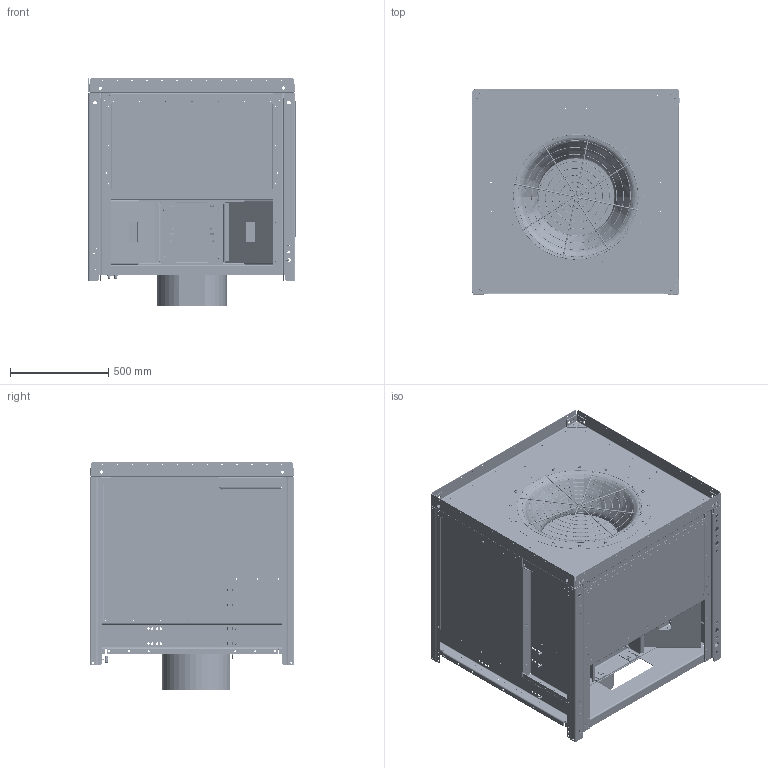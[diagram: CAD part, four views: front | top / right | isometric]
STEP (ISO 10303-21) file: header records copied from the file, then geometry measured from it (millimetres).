
FILE_DESCRIPTION((''),'2;1');
FILE_NAME('058686_ASM','2014-08-07T',('dbubemyre'),(''),'PRO/ENGINEER BY PARAMETRIC TECHNOLOGY CORPORATION, 2014090','PRO/ENGINEER BY PARAMETRIC TECHNOLOGY CORPORATION, 2014090','');
FILE_SCHEMA(('CONFIG_CONTROL_DESIGN'));
Length unit declared in the file: inch
Products named in the file (85): 0575820001; 0575830001; 0575740005; 0575880001; 057834_MIR; 0575820012_MIR; 057834; 0575990001_MIR_ASM; 0575820012; 0575740005_AF5; 0575990001_AF5_ASM; NEMA_284T_TEFC; 0575690001; 0575680010; 0576650009; 0579720004; 0575650005; 0579720004_B; 057576; 0575710002; 057778; 057778_MIR; 0575880003; 057581; NUT-INSERT_RIVET_31-18THD; WA012; HCS048; 0575660001; 0575700002; 0575790001; 0575890004_ASM; 0575660003; 0575700004; 0575790003; 0575890002_ASM; NUT-INSERT_RIVET_10-32THD; FITTING-TUBE-TO-THREAD_25; 05405801; 057632; 0544950007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
Assembly tree (292 placements, depth 3):
  058686_ASM
    0575990001_MIR_ASM
      0575820001
      0575830001
      0575740005
      0575880001  x2
      057834_MIR
      0575820012_MIR
      057834
    0575990001_AF5_ASM
      0575820012
      0575830001
      0575820001
      0575740005_AF5
      0575880001  x2
      057834_MIR
      057834
    NEMA_284T_TEFC
    0575690001
    0575680010
    0576650009
    0579720004
    0575650005
    0579720004_B
    057576
    0575710002
    057778
    057778_MIR
    0575880003  x3
    057581  x4
    NUT-INSERT_RIVET_31-18THD  x16
    WA012  x16
    HCS048  x16
    0575890004_ASM
      0575660001
      0575700002
      0575790001
    0575890002_ASM
      0575660003
      0575700004
      0575790003
    NUT-INSERT_RIVET_10-32THD
    FITTING-TUBE-TO-THREAD_25
    05405801
    057632
    0544950007
    057631  x4
    058559
    BULKHEAD_TUBEFITTING_25  x2
    0575730001
    0576560002_ASM
      INLETGUARD_222
      RING_AJ
      ROD_222  x4
    057699-245_ASM
      057699_1_245
      057699_3_245  x2
      057699_2_245
      057699_4A  x32
      057699_4B  x2
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Bounding box: 1053.33 x 1042.16 x 1159.73 mm (x, y, z)
Volume: 239398528.8 mm3; surface area: 30518269.7 mm2
Topology: 284 solids, 284 shells, 6763 faces, 16306 edges, 10258 vertices
Faces by surface type: cylinder 3748, plane 2359, torus 340, cone 200, bspline 116
Entity records: 145276 total; most frequent: CARTESIAN_POINT 33066, DIRECTION 24821, ORIENTED_EDGE 21314, EDGE_CURVE 10657, AXIS2_PLACEMENT_3D 9840, VERTEX_POINT 6695, EDGE_LOOP 6192, CIRCLE 5275
